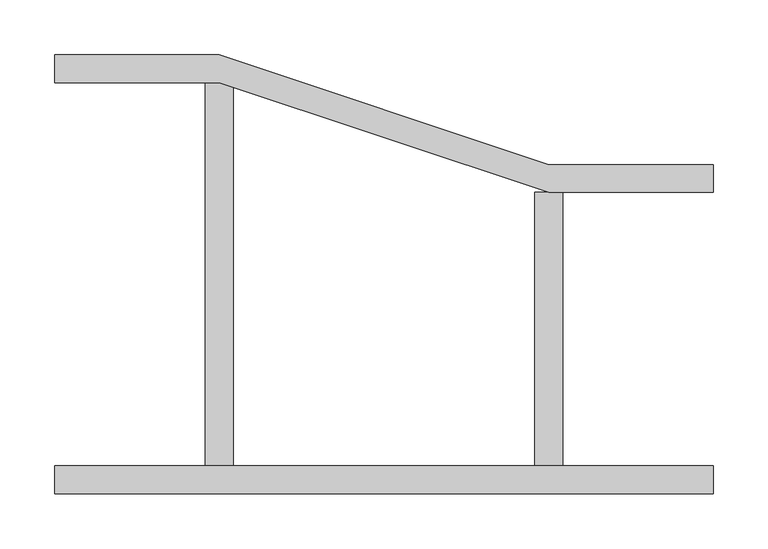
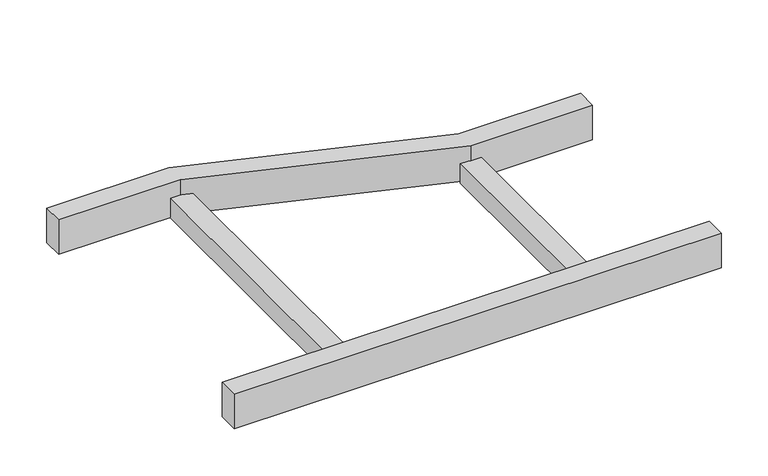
"""IFC4 building model written with IfcOpenShell, lengths in millimetres: cable carrier fitting geometry, BAKS_LD_RED_Straight reducer_RD : RD(S/L/P)C_H45."""

import ifcopenshell
import ifcopenshell.guid

model = None  # the IFC model being written
_history = None  # IfcOwnerHistory: only IFC2X3 demands one
_inside = {}  # id of a spatial element -> (the spatial element, [elements in it])
_under = {}  # id of a project, library or spatial element -> (it, [spatial elements below it])
_declared = {}  # id of a project -> (the project, [libraries it declares])
_typed = {}  # id of a type object -> (the type object, [elements of that type])
_made_of = {}  # id of a material, layer set ... -> (it, [elements and type objects made of it])


def new_model(schema):
    """Start an empty IFC model of exactly this schema.

    Asked for "IFC4X3", IfcOpenShell would pick the latest addendum, in which some entities
    have other attributes; the version numbers below select the first issue.
    IFC2X3 requires an IfcOwnerHistory on every rooted entity: one is made here for all.
    """
    global model, _history
    if schema == "IFC4X3":
        model = ifcopenshell.file(schema_version=(4, 3, 0, 0))
    else:
        model = ifcopenshell.file(schema=schema)
    _inside.clear()
    _under.clear()
    _declared.clear()
    _typed.clear()
    _made_of.clear()
    _history = None
    if model.schema == "IFC2X3":
        org = make("IfcOrganization", Name="unknown")
        user = make(
            "IfcPersonAndOrganization",
            ThePerson=make("IfcPerson", FamilyName="unknown"),
            TheOrganization=org,
        )
        app = make(
            "IfcApplication",
            ApplicationDeveloper=org,
            Version="unknown",
            ApplicationFullName="unknown",
            ApplicationIdentifier="unknown",
        )
        _history = make(
            "IfcOwnerHistory",
            OwningUser=user,
            OwningApplication=app,
            ChangeAction="ADDED",
            CreationDate=0,
        )
    return model


def make(cls, **values):
    """One entity of the class cls with the attributes given. An attribute that is None is left unset."""
    return model.create_entity(
        cls, **{name: value for name, value in values.items() if value is not None}
    )


def rooted(cls, **values):
    """An entity with a GlobalId (a new one), such as an element, a storey or a relation."""
    return make(cls, GlobalId=ifcopenshell.guid.new(), OwnerHistory=_history, **values)


def si_unit(unit_type, name, prefix=None):
    """IfcSIUnit, for example si_unit("LENGTHUNIT", "METRE", prefix="MILLI")."""
    return make("IfcSIUnit", UnitType=unit_type, Prefix=prefix, Name=name)


def assignment(units):
    """IfcUnitAssignment: the units of a project."""
    return None if units is None else make("IfcUnitAssignment", Units=units)


def point(xyz):
    """IfcCartesianPoint."""
    return None if xyz is None else make("IfcCartesianPoint", Coordinates=xyz)


def direction(xyz):
    """IfcDirection."""
    return None if xyz is None else make("IfcDirection", DirectionRatios=xyz)


def frame(location, z_axis=None, x_axis=None):
    """IfcAxis2Placement3D, a coordinate frame: its origin and axes. An axis left out is left unset."""
    return make(
        "IfcAxis2Placement3D",
        Location=point(location),
        Axis=direction(z_axis),
        RefDirection=direction(x_axis),
    )


def origin():
    """The frame at (0, 0, 0) with its axes left unset."""
    return frame((0.0, 0.0, 0.0))


def place(relative_to, where):
    """IfcLocalPlacement: puts the frame where relative to a parent placement (None: the world)."""
    return make(
        "IfcLocalPlacement", PlacementRelTo=relative_to, RelativePlacement=where
    )


def context(
    kind, dimensions, precision=None, world=None, true_north=None, identifier=None
):
    """IfcGeometricRepresentationContext, for example the 3D "Model" context."""
    return make(
        "IfcGeometricRepresentationContext",
        ContextIdentifier=identifier,
        ContextType=kind,
        CoordinateSpaceDimension=dimensions,
        Precision=precision,
        WorldCoordinateSystem=world,
        TrueNorth=true_north,
    )


def project(units=None, contexts=None):
    """IfcProject with its units and contexts."""
    return rooted(
        "IfcProject",
        Name="project",
        RepresentationContexts=contexts,
        UnitsInContext=assignment(units),
    )


def spatial(cls, under=None, at=None, **own):
    """A site, building, storey or space (cls), placed at a placement, below another one or the project."""
    s = rooted(cls, ObjectPlacement=at, **own)
    if under is not None:
        _under.setdefault(under.id(), (under, []))[1].append(s)
    return s


def polyline(points):
    """IfcPolyline through the points."""
    return make("IfcPolyline", Points=[point(p) for p in points])


def outline(outer, holes=None, kind="AREA"):
    """IfcArbitraryClosedProfileDef: a profile drawn as a closed curve; with holes, ...WithVoids."""
    if holes is None:
        return make("IfcArbitraryClosedProfileDef", ProfileType=kind, OuterCurve=outer)
    return make(
        "IfcArbitraryProfileDefWithVoids",
        ProfileType=kind,
        OuterCurve=outer,
        InnerCurves=holes,
    )


def extrude(swept, where, along, depth):
    """IfcExtrudedAreaSolid: the profile swept, set in the frame where, extruded along a direction by depth."""
    return make(
        "IfcExtrudedAreaSolid",
        SweptArea=swept,
        Position=where,
        ExtrudedDirection=direction(along),
        Depth=depth,
    )


def shape(context_of_items, identifier, shape_type, items):
    """IfcShapeRepresentation: the items that make up one representation, for example the "Body"."""
    return make(
        "IfcShapeRepresentation",
        ContextOfItems=context_of_items,
        RepresentationIdentifier=identifier,
        RepresentationType=shape_type,
        Items=items,
    )


def source(mapping_origin, context_of_items, identifier, shape_type, items):
    """IfcRepresentationMap: a shape defined once, which mapped items show again and again."""
    return make(
        "IfcRepresentationMap",
        MappingOrigin=mapping_origin,
        MappedRepresentation=shape(context_of_items, identifier, shape_type, items),
    )


def transform(
    local_origin,
    x_axis=None,
    y_axis=None,
    z_axis=None,
    scale=None,
    scale2=None,
    scale3=None,
    uniform=True,
):
    """IfcCartesianTransformationOperator3D, or its non-uniform kind. x_axis, y_axis, z_axis: its Axis1, 2, 3."""
    if uniform:
        return make(
            "IfcCartesianTransformationOperator3D",
            Axis1=direction(x_axis),
            Axis2=direction(y_axis),
            LocalOrigin=point(local_origin),
            Scale=scale,
            Axis3=direction(z_axis),
        )
    return make(
        "IfcCartesianTransformationOperator3DnonUniform",
        Axis1=direction(x_axis),
        Axis2=direction(y_axis),
        LocalOrigin=point(local_origin),
        Scale=scale,
        Axis3=direction(z_axis),
        Scale2=scale2,
        Scale3=scale3,
    )


def mapped(mapping_source, mapping_target):
    """IfcMappedItem: shows the shape of a source again, moved by a transform."""
    return make(
        "IfcMappedItem", MappingSource=mapping_source, MappingTarget=mapping_target
    )


def made_of(thing, what):
    """Note that an element or type object is made of a material, layer set ...; save() writes the relation."""
    if what is not None:
        _made_of.setdefault(what.id(), (what, []))[1].append(thing)
    return thing


def element(
    cls,
    number,
    at=None,
    inside=None,
    cuts=None,
    type_object=None,
    material=None,
    context=None,
    identifier="Body",
    shape_type=None,
    held_by="IfcProductDefinitionShape",
    body=None,
    shapes=None,
    **own,
):
    """One element of the class cls, such as IfcWall. Its Tag is "e" and its number.

    at: its placement. inside: the storey or other place that contains it. cuts: it is an
    opening in that element (IfcRelVoidsElement). A single representation is given by context,
    identifier, shape_type and body (its items); several are given by shapes. held_by: the class
    of the entity that holds the representations. save() writes the other relations.
    """
    e = rooted(cls, Tag="e%d" % number, ObjectPlacement=at, **own)
    if body is not None:
        shapes = [shape(context, identifier, shape_type, body)]
    if shapes is not None:
        e.Representation = make(held_by, Representations=shapes)
    if inside is not None:
        _inside.setdefault(inside.id(), (inside, []))[1].append(e)
    if cuts is not None:
        rooted(
            "IfcRelVoidsElement", RelatingBuildingElement=cuts, RelatedOpeningElement=e
        )
    if type_object is not None:
        _typed.setdefault(type_object.id(), (type_object, []))[1].append(e)
    return made_of(e, material)


def aggregate(whole, parts):
    """IfcRelAggregates: a whole, such as a stair, and the parts it consists of."""
    return rooted("IfcRelAggregates", RelatingObject=whole, RelatedObjects=parts)


def save(model, path):
    """Write the relations noted so far, then the file.

    IfcRelAggregates (storeys below a building ...), IfcRelContainedInSpatialStructure (elements
    in a storey), IfcRelDefinesByType, IfcRelAssociatesMaterial and IfcRelDeclares: one each for
    every whole, place, type object, material and project.
    """
    for whole, parts in _under.values():
        aggregate(whole, parts)
    for where, things in _inside.values():
        rooted(
            "IfcRelContainedInSpatialStructure",
            RelatedElements=things,
            RelatingStructure=where,
        )
    for kind, things in _typed.values():
        rooted("IfcRelDefinesByType", RelatedObjects=things, RelatingType=kind)
    for what, things in _made_of.values():
        rooted("IfcRelAssociatesMaterial", RelatedObjects=things, RelatingMaterial=what)
    for by, libraries in _declared.values():
        rooted("IfcRelDeclares", RelatingContext=by, RelatedDefinitions=libraries)
    model.write(path)


def cable_carrier_fitting_ec1c524e(model_context):
    return source(origin(), model_context, "Body", "SweptSolid", [
        extrude(outline(polyline([(0.0, -200.0), (0.0, -174.6), (600.0, -174.6), (600.0, -200.0), (0.0, -200.0)])), frame((0.0, 0.0, -22.5), z_axis=(0.0, 0.0, 1.0), x_axis=(1.0, 0.0, 0.0)), (0.0, 0.0, 1.0), 45.0),
        extrude(outline(polyline([(0.0, 174.6), (0.0, 200.0), (150.0, 200.0), (450.0, 100.0), (600.0, 100.0), (600.0, 74.6), (450.0, 74.6), (150.0, 174.6), (0.0, 174.6)])), frame((0.0, 0.0, -22.5), z_axis=(0.0, 0.0, 1.0), x_axis=(1.0, 0.0, 0.0)), (0.0, 0.0, 1.0), 45.0),
        extrude(outline(polyline([(437.3, 74.6), (462.7, 74.6), (462.7, -174.6), (437.3, -174.6), (437.3, 74.6)])), frame((0.0, 0.0, -22.5), z_axis=(0.0, 0.0, 1.0), x_axis=(1.0, 0.0, 0.0)), (0.0, 0.0, 1.0), 25.4),
        extrude(outline(polyline([(137.3, 174.6), (162.7, 174.6), (162.7, -174.6), (137.3, -174.6), (137.3, 174.6)])), frame((0.0, 0.0, -22.5), z_axis=(0.0, 0.0, 1.0), x_axis=(1.0, 0.0, 0.0)), (0.0, 0.0, 1.0), 25.4),
    ])


if __name__ == "__main__":
    model = new_model("IFC4")
    model_context = context("Model", 3, world=origin())
    ifc_project = project(units=[si_unit("LENGTHUNIT", "METRE", prefix="MILLI")], contexts=[model_context])
    site = spatial("IfcSite", under=ifc_project)
    building = spatial("IfcBuilding", under=site)
    placement = place(None, origin())
    cable_carrier_fitting_shape = cable_carrier_fitting_ec1c524e(model_context)
    element("IfcCableCarrierFitting", 1, ObjectType="BAKS_LD_RED_Straight reducer_RD : RD(S/L/P)C_H45", at=placement, inside=building, context=model_context, shape_type="MappedRepresentation", body=[
        mapped(cable_carrier_fitting_shape, transform((0.0, 0.0, 0.0), x_axis=(1.0, 0.0, 0.0), y_axis=(0.0, 1.0, 0.0), z_axis=(0.0, 0.0, 1.0))),
    ])
    save(model, "model.ifc")
